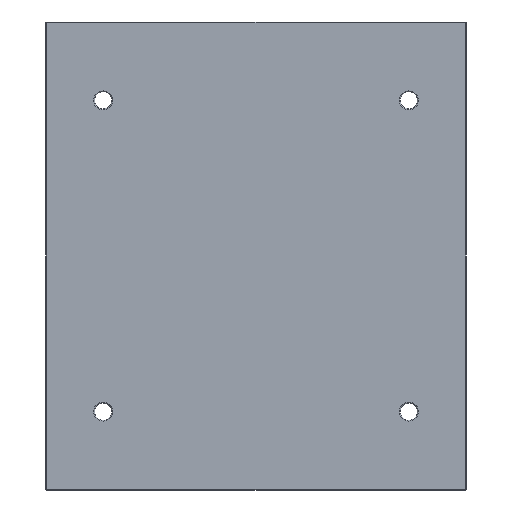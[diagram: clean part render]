
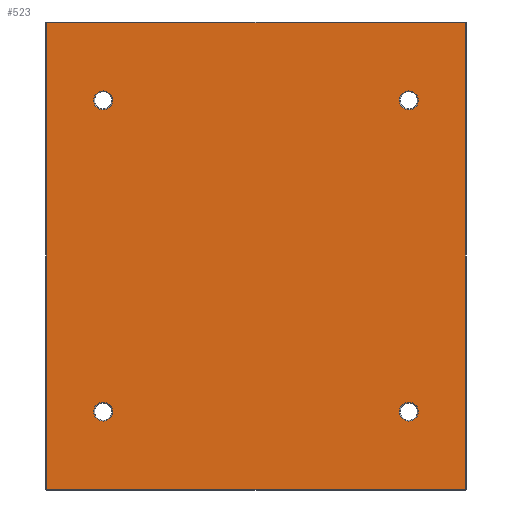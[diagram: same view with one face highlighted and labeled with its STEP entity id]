
A CAD part, front view. The second image highlights one B-rep face of the part: STEP entity #523.
In plain terms, the highlighted planar face has unit normal (0, -1, 0).
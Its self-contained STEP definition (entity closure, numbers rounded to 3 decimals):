
#10 = ORIENTED_EDGE ( 'NONE', *, *, #1039, .T. ) ;
#18 = DIRECTION ( 'NONE',  ( 1., 0., 0. ) ) ;
#30 = CARTESIAN_POINT ( 'NONE',  ( 162., 0., 155. ) ) ;
#58 = CARTESIAN_POINT ( 'NONE',  ( -162., 0., -175. ) ) ;
#59 = FACE_BOUND ( 'NONE', #1517, .T. ) ;
#64 = VERTEX_POINT ( 'NONE', #58 ) ;
#125 = VERTEX_POINT ( 'NONE', #338 ) ;
#181 = AXIS2_PLACEMENT_3D ( 'NONE', #611, #634, #541 ) ;
#227 = CARTESIAN_POINT ( 'NONE',  ( -162., 0., 165. ) ) ;
#252 = CARTESIAN_POINT ( 'NONE',  ( 0., 0., -247. ) ) ;
#261 = ORIENTED_EDGE ( 'NONE', *, *, #1417, .T. ) ;
#273 = DIRECTION ( 'NONE',  ( 0., 0., 1. ) ) ;
#289 = DIRECTION ( 'NONE',  ( 0., 1., 0. ) ) ;
#311 = CARTESIAN_POINT ( 'NONE',  ( 222., 0., 247. ) ) ;
#323 = CARTESIAN_POINT ( 'NONE',  ( -222., 0., 0. ) ) ;
#327 = CARTESIAN_POINT ( 'NONE',  ( 0., 0., 0. ) ) ;
#331 = DIRECTION ( 'NONE',  ( 0., 1., 0. ) ) ;
#338 = CARTESIAN_POINT ( 'NONE',  ( -222., 0., 247. ) ) ;
#353 = AXIS2_PLACEMENT_3D ( 'NONE', #475, #460, #454 ) ;
#363 = DIRECTION ( 'NONE',  ( 0., 0., 1. ) ) ;
#366 = LINE ( 'NONE', #1134, #1648 ) ;
#368 = CIRCLE ( 'NONE', #913, 10. ) ;
#378 = DIRECTION ( 'NONE',  ( 0., 1., 0. ) ) ;
#386 = CARTESIAN_POINT ( 'NONE',  ( -162., 0., 165. ) ) ;
#402 = FACE_OUTER_BOUND ( 'NONE', #840, .T. ) ;
#446 = FACE_BOUND ( 'NONE', #1469, .T. ) ;
#454 = DIRECTION ( 'NONE',  ( 0., 0., 1. ) ) ;
#460 = DIRECTION ( 'NONE',  ( 0., 1., 0. ) ) ;
#475 = CARTESIAN_POINT ( 'NONE',  ( -162., 0., -165. ) ) ;
#492 = CARTESIAN_POINT ( 'NONE',  ( -162., 0., 155. ) ) ;
#495 = AXIS2_PLACEMENT_3D ( 'NONE', #1491, #1489, #1411 ) ;
#522 = LINE ( 'NONE', #323, #1509 ) ;
#523 = ADVANCED_FACE ( 'NONE', ( #765, #59, #446, #1101, #402 ), #1204, .F. ) ;
#541 = DIRECTION ( 'NONE',  ( 0., 0., 1. ) ) ;
#558 = VERTEX_POINT ( 'NONE', #311 ) ;
#611 = CARTESIAN_POINT ( 'NONE',  ( -162., 0., -165. ) ) ;
#630 = VERTEX_POINT ( 'NONE', #1307 ) ;
#632 = VECTOR ( 'NONE', #18, 1000. ) ;
#634 = DIRECTION ( 'NONE',  ( 0., 1., 0. ) ) ;
#689 = CARTESIAN_POINT ( 'NONE',  ( 222., 0., -247. ) ) ;
#719 = EDGE_CURVE ( 'NONE', #961, #1657, #1365, .T. ) ;
#720 = ORIENTED_EDGE ( 'NONE', *, *, #1528, .T. ) ;
#729 = ORIENTED_EDGE ( 'NONE', *, *, #719, .T. ) ;
#757 = CIRCLE ( 'NONE', #353, 10. ) ;
#765 = FACE_BOUND ( 'NONE', #1153, .T. ) ;
#840 = EDGE_LOOP ( 'NONE', ( #261, #956, #1538, #909 ) ) ;
#845 = AXIS2_PLACEMENT_3D ( 'NONE', #327, #331, #1185 ) ;
#847 = CIRCLE ( 'NONE', #181, 10. ) ;
#855 = EDGE_CURVE ( 'NONE', #1581, #953, #1527, .T. ) ;
#862 = VERTEX_POINT ( 'NONE', #30 ) ;
#879 = EDGE_LOOP ( 'NONE', ( #1033, #1600 ) ) ;
#899 = DIRECTION ( 'NONE',  ( 0., 0., 1. ) ) ;
#909 = ORIENTED_EDGE ( 'NONE', *, *, #855, .T. ) ;
#913 = AXIS2_PLACEMENT_3D ( 'NONE', #1464, #1523, #1530 ) ;
#929 = CARTESIAN_POINT ( 'NONE',  ( -162., 0., 175. ) ) ;
#934 = AXIS2_PLACEMENT_3D ( 'NONE', #1030, #1015, #1008 ) ;
#935 = DIRECTION ( 'NONE',  ( 0., 1., 0. ) ) ;
#953 = VERTEX_POINT ( 'NONE', #689 ) ;
#956 = ORIENTED_EDGE ( 'NONE', *, *, #1330, .T. ) ;
#961 = VERTEX_POINT ( 'NONE', #929 ) ;
#984 = ORIENTED_EDGE ( 'NONE', *, *, #1313, .T. ) ;
#1008 = DIRECTION ( 'NONE',  ( 0., 0., 1. ) ) ;
#1010 = CARTESIAN_POINT ( 'NONE',  ( -222., 0., -247. ) ) ;
#1013 = VERTEX_POINT ( 'NONE', #1219 ) ;
#1015 = DIRECTION ( 'NONE',  ( 0., 1., 0. ) ) ;
#1030 = CARTESIAN_POINT ( 'NONE',  ( 162., 0., -165. ) ) ;
#1033 = ORIENTED_EDGE ( 'NONE', *, *, #1234, .T. ) ;
#1039 = EDGE_CURVE ( 'NONE', #862, #1338, #368, .T. ) ;
#1100 = EDGE_CURVE ( 'NONE', #125, #1581, #522, .T. ) ;
#1101 = FACE_BOUND ( 'NONE', #879, .T. ) ;
#1112 = CIRCLE ( 'NONE', #934, 10. ) ;
#1134 = CARTESIAN_POINT ( 'NONE',  ( 222., 0., 0. ) ) ;
#1146 = VECTOR ( 'NONE', #1258, 1000. ) ;
#1153 = EDGE_LOOP ( 'NONE', ( #1368, #720 ) ) ;
#1185 = DIRECTION ( 'NONE',  ( 0., 0., 1. ) ) ;
#1201 = VERTEX_POINT ( 'NONE', #1558 ) ;
#1204 = PLANE ( 'NONE',  #845 ) ;
#1219 = CARTESIAN_POINT ( 'NONE',  ( 162., 0., -155. ) ) ;
#1234 = EDGE_CURVE ( 'NONE', #64, #1201, #847, .T. ) ;
#1235 = CIRCLE ( 'NONE', #1629, 10. ) ;
#1258 = DIRECTION ( 'NONE',  ( -1., 0., 0. ) ) ;
#1264 = CARTESIAN_POINT ( 'NONE',  ( 162., 0., -165. ) ) ;
#1270 = CARTESIAN_POINT ( 'NONE',  ( 162., 0., 175. ) ) ;
#1291 = LINE ( 'NONE', #1513, #1146 ) ;
#1307 = CARTESIAN_POINT ( 'NONE',  ( 162., 0., -175. ) ) ;
#1313 = EDGE_CURVE ( 'NONE', #1338, #862, #1589, .T. ) ;
#1330 = EDGE_CURVE ( 'NONE', #558, #125, #1291, .T. ) ;
#1331 = AXIS2_PLACEMENT_3D ( 'NONE', #386, #378, #363 ) ;
#1338 = VERTEX_POINT ( 'NONE', #1270 ) ;
#1365 = CIRCLE ( 'NONE', #1522, 10. ) ;
#1368 = ORIENTED_EDGE ( 'NONE', *, *, #1388, .T. ) ;
#1377 = ORIENTED_EDGE ( 'NONE', *, *, #1475, .T. ) ;
#1388 = EDGE_CURVE ( 'NONE', #630, #1013, #1112, .T. ) ;
#1411 = DIRECTION ( 'NONE',  ( 0., 0., 1. ) ) ;
#1417 = EDGE_CURVE ( 'NONE', #953, #558, #366, .T. ) ;
#1418 = DIRECTION ( 'NONE',  ( 0., 0., -1. ) ) ;
#1464 = CARTESIAN_POINT ( 'NONE',  ( 162., 0., 165. ) ) ;
#1469 = EDGE_LOOP ( 'NONE', ( #1377, #729 ) ) ;
#1475 = EDGE_CURVE ( 'NONE', #1657, #961, #1605, .T. ) ;
#1489 = DIRECTION ( 'NONE',  ( 0., 1., 0. ) ) ;
#1491 = CARTESIAN_POINT ( 'NONE',  ( 162., 0., 165. ) ) ;
#1509 = VECTOR ( 'NONE', #1418, 1000. ) ;
#1513 = CARTESIAN_POINT ( 'NONE',  ( 0., 0., 247. ) ) ;
#1517 = EDGE_LOOP ( 'NONE', ( #10, #984 ) ) ;
#1522 = AXIS2_PLACEMENT_3D ( 'NONE', #227, #289, #273 ) ;
#1523 = DIRECTION ( 'NONE',  ( 0., 1., 0. ) ) ;
#1527 = LINE ( 'NONE', #252, #632 ) ;
#1528 = EDGE_CURVE ( 'NONE', #1013, #630, #1235, .T. ) ;
#1530 = DIRECTION ( 'NONE',  ( 0., 0., 1. ) ) ;
#1538 = ORIENTED_EDGE ( 'NONE', *, *, #1100, .T. ) ;
#1558 = CARTESIAN_POINT ( 'NONE',  ( -162., 0., -155. ) ) ;
#1581 = VERTEX_POINT ( 'NONE', #1010 ) ;
#1588 = DIRECTION ( 'NONE',  ( 0., 0., 1. ) ) ;
#1589 = CIRCLE ( 'NONE', #495, 10. ) ;
#1600 = ORIENTED_EDGE ( 'NONE', *, *, #1652, .T. ) ;
#1605 = CIRCLE ( 'NONE', #1331, 10. ) ;
#1629 = AXIS2_PLACEMENT_3D ( 'NONE', #1264, #935, #899 ) ;
#1648 = VECTOR ( 'NONE', #1588, 1000. ) ;
#1652 = EDGE_CURVE ( 'NONE', #1201, #64, #757, .T. ) ;
#1657 = VERTEX_POINT ( 'NONE', #492 ) ;
